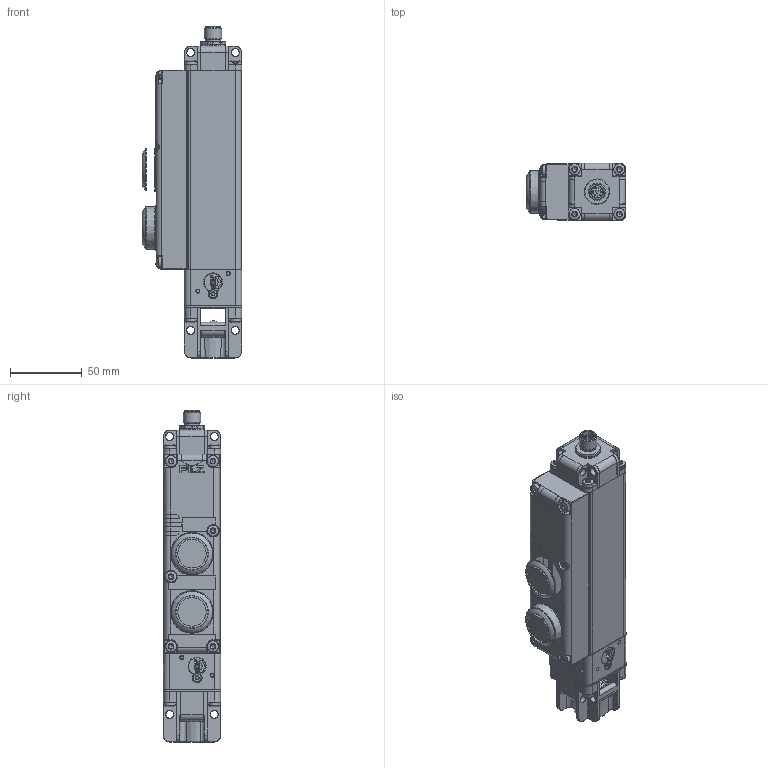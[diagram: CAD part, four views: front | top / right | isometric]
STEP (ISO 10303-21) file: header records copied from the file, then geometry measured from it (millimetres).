
FILE_DESCRIPTION(/* description */ (''),/* implementation_level */ '2;1');
FILE_NAME(/* name */ '2038030_A_PSENmg1-A-xxxxx-Rxxx-Sx-U.stp',/* time_stamp */ '2025-08-15T11:33:19+02:00',/* author */ ('prim'),/* organization */ (''),/* preprocessor_version */ 'ST-DEVELOPER v20',/* originating_system */ 'Autodesk Inventor 2024',/* authorisation */ '');
FILE_SCHEMA (('AUTOMOTIVE_DESIGN { 1 0 10303 214 3 1 1 }'));
Products named in the file (1): 2038030
Bounding box: 69.25 x 40 x 231.2 mm (x, y, z)
Volume: 422839.3 mm3; surface area: 60927.1 mm2
Topology: 1 solids, 1 shells, 1902 faces, 4766 edges, 2901 vertices
Faces by surface type: cylinder 633, plane 432, bspline 335, cone 257, torus 184, sphere 61
Full cylindrical faces by diameter (mm): 0.6 x12, 2.693 x3, 3.1 x3, 5.5 x11, 8.2 x2, 8.3 x1, 9 x1, 10 x1, 10.5 x1, 10.6 x1, 12 x2, 12.15 x1, 16.1 x1, 17 x1, 19.85 x2, 20 x1, 22.642 x2, 28.6 x2, 29.2 x2
Entity records: 72421 total; most frequent: CARTESIAN_POINT 29035, ORIENTED_EDGE 9464, DIRECTION 8558, EDGE_CURVE 4732, AXIS2_PLACEMENT_3D 3464, VERTEX_POINT 2901, EDGE_LOOP 2017, FACE_OUTER_BOUND 1902
